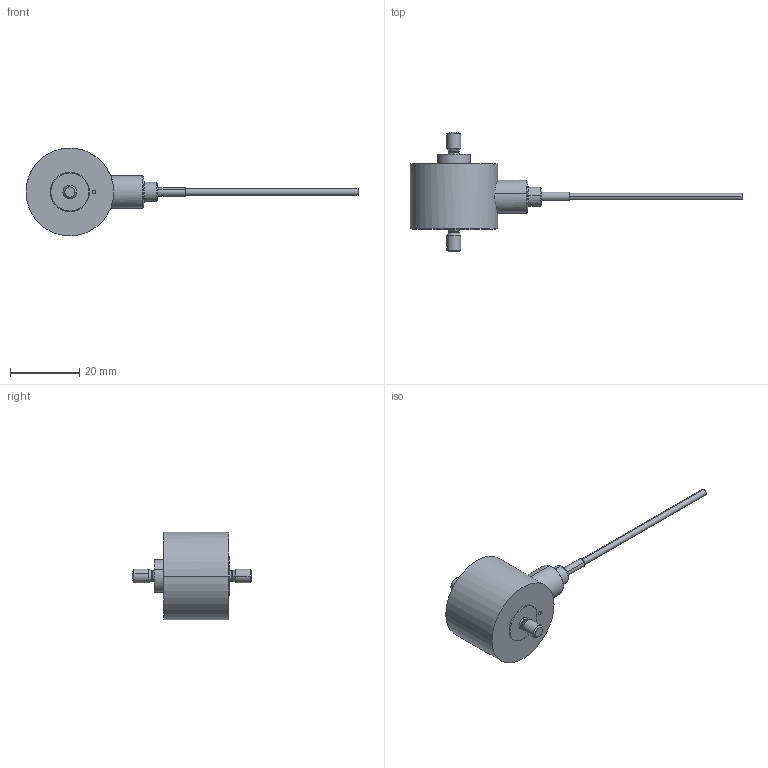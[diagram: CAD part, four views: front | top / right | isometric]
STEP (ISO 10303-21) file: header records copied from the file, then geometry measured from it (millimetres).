
FILE_DESCRIPTION(('STEP AP203'),'1');
FILE_NAME('C:/TPO v2/SharedFS/Outgoing/burster_8432-5005_91f3gnz2ptkn2pzcbgxra9nc4.stp','2013-08-27T17:22:07',('TraceParts'),('TraceParts S.A.'),'XStep 1.0',' ',' ');
FILE_SCHEMA(('CONFIG_CONTROL_DESIGN'));
Length unit declared in the file: millimetre
Products named in the file (1): 1
Bounding box: 96.1 x 34.61 x 25.4 mm (x, y, z)
Volume: 10820.4 mm3; surface area: 3561.2 mm2
Topology: 1 solids, 1 shells, 65 faces, 154 edges, 101 vertices
Faces by surface type: cylinder 24, cone 16, torus 12, plane 12, sphere 1
Entity records: 2011 total; most frequent: DIRECTION 389, CARTESIAN_POINT 362, ORIENTED_EDGE 308, AXIS2_PLACEMENT_3D 174, EDGE_CURVE 154, CIRCLE 108, VERTEX_POINT 101, EDGE_LOOP 75
